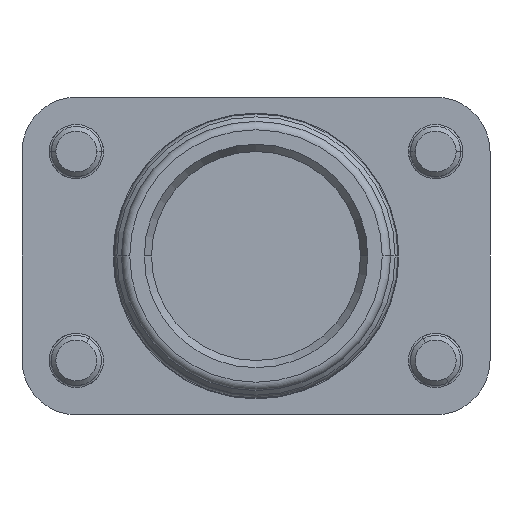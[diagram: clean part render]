
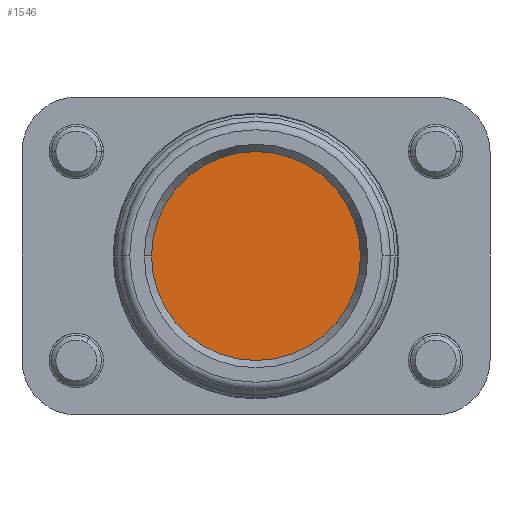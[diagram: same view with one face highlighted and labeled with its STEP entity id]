
A CAD part, front view. The second image highlights one B-rep face of the part: STEP entity #1546.
In plain terms, the highlighted planar face has unit normal (0, -1, 0).
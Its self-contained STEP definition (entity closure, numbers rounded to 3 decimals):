
#82 = DIRECTION ( 'NONE',  ( 0., 0., -1. ) ) ;
#980 = AXIS2_PLACEMENT_3D ( 'NONE', #6112, #9065, #4167 ) ;
#1006 = EDGE_LOOP ( 'NONE', ( #3837, #8154 ) ) ;
#1362 = VERTEX_POINT ( 'NONE', #8754 ) ;
#1546 = ADVANCED_FACE ( 'NONE', ( #12198 ), #10874, .T. ) ;
#2741 = VERTEX_POINT ( 'NONE', #3448 ) ;
#2968 = CARTESIAN_POINT ( 'NONE',  ( 0., 0., 0. ) ) ;
#3448 = CARTESIAN_POINT ( 'NONE',  ( 0., 0., -12.5 ) ) ;
#3837 = ORIENTED_EDGE ( 'NONE', *, *, #10302, .T. ) ;
#3970 = CIRCLE ( 'NONE', #7375, 12.5 ) ;
#4167 = DIRECTION ( 'NONE',  ( 0., 0., -1. ) ) ;
#4301 = CIRCLE ( 'NONE', #980, 12.5 ) ;
#4932 = DIRECTION ( 'NONE',  ( 0., -1., 0. ) ) ;
#5922 = DIRECTION ( 'NONE',  ( 0., 0., -1. ) ) ;
#6112 = CARTESIAN_POINT ( 'NONE',  ( 0., 0., 0. ) ) ;
#7375 = AXIS2_PLACEMENT_3D ( 'NONE', #2968, #12769, #82 ) ;
#8154 = ORIENTED_EDGE ( 'NONE', *, *, #12029, .T. ) ;
#8754 = CARTESIAN_POINT ( 'NONE',  ( 0., 0., 12.5 ) ) ;
#9065 = DIRECTION ( 'NONE',  ( 0., -1., 0. ) ) ;
#9839 = CARTESIAN_POINT ( 'NONE',  ( 0., 0., 0. ) ) ;
#10188 = AXIS2_PLACEMENT_3D ( 'NONE', #9839, #4932, #5922 ) ;
#10302 = EDGE_CURVE ( 'NONE', #2741, #1362, #4301, .T. ) ;
#10874 = PLANE ( 'NONE',  #10188 ) ;
#12029 = EDGE_CURVE ( 'NONE', #1362, #2741, #3970, .T. ) ;
#12198 = FACE_OUTER_BOUND ( 'NONE', #1006, .T. ) ;
#12769 = DIRECTION ( 'NONE',  ( 0., -1., 0. ) ) ;
